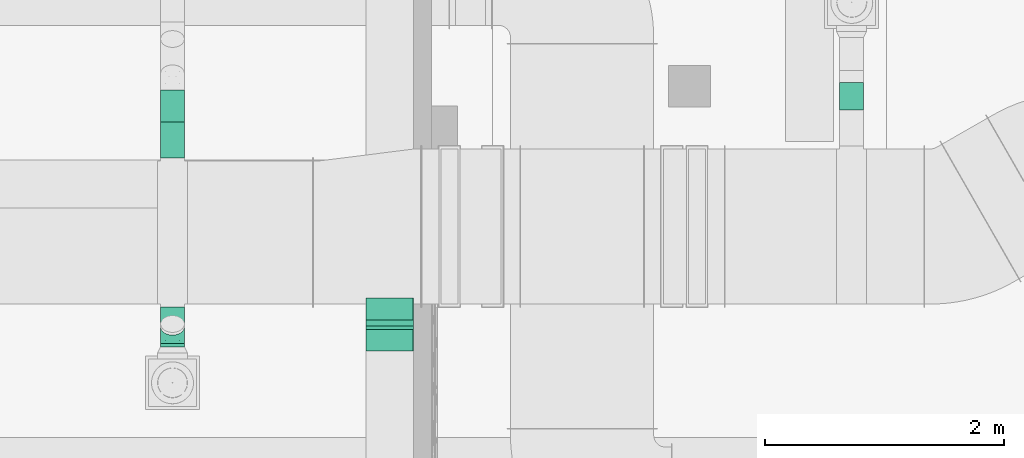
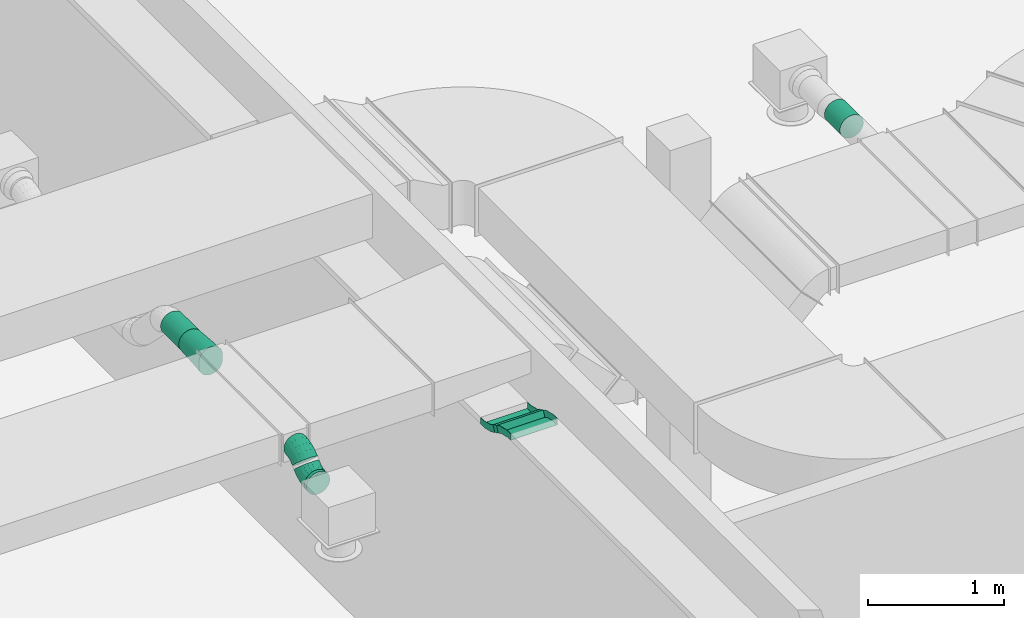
# One storey, part 279 of 302: 5 flow fittings, 4 flow segments.
"""IFC2X3 building model written with IfcOpenShell, lengths in metres."""

from ifc_helpers import new_model, entity, si_unit, converted_unit, derived_unit, direction, frame, frame_2d, origin, origin_2d_with_axis, place, context, subcontext, project, spatial, rectangle, circle, extrude, faceted_brep, source, transform, mapped, material, type_object, type_shapes, element, save


model = new_model("IFC2X3")

# Units and contexts
model_context = context("Model", 3, precision=1e-05, world=origin(), true_north=direction((6.12303176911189e-17, 1.0)))
body_context = subcontext(model_context, "Body", "Model", "MODEL_VIEW")
ifc_project = project(units=[si_unit("LENGTHUNIT", "METRE"), si_unit("AREAUNIT", "SQUARE_METRE"), si_unit("VOLUMEUNIT", "CUBIC_METRE"), converted_unit("PLANEANGLEUNIT", "DEGREE", entity("IfcRatioMeasure", 0.0174532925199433), si_unit("PLANEANGLEUNIT", "RADIAN"), dimensions=[0, 0, 0, 0, 0, 0, 0]), si_unit("MASSUNIT", "GRAM", prefix="KILO"), derived_unit("MASSDENSITYUNIT", [(si_unit("MASSUNIT", "GRAM", prefix="KILO"), 1), (si_unit("LENGTHUNIT", "METRE"), -3)]), derived_unit("MOMENTOFINERTIAUNIT", [(si_unit("LENGTHUNIT", "METRE"), 4)]), si_unit("TIMEUNIT", "SECOND"), si_unit("FREQUENCYUNIT", "HERTZ"), si_unit("THERMODYNAMICTEMPERATUREUNIT", "DEGREE_CELSIUS"), derived_unit("THERMALTRANSMITTANCEUNIT", [(si_unit("MASSUNIT", "GRAM", prefix="KILO"), 1), (si_unit("THERMODYNAMICTEMPERATUREUNIT", "KELVIN"), -1), (si_unit("TIMEUNIT", "SECOND"), -3)]), derived_unit("VOLUMETRICFLOWRATEUNIT", [(si_unit("LENGTHUNIT", "METRE"), 3), (si_unit("TIMEUNIT", "SECOND"), -1)]), si_unit("ELECTRICCURRENTUNIT", "AMPERE"), si_unit("ELECTRICVOLTAGEUNIT", "VOLT"), si_unit("POWERUNIT", "WATT"), si_unit("FORCEUNIT", "NEWTON", prefix="KILO"), si_unit("ILLUMINANCEUNIT", "LUX"), si_unit("LUMINOUSFLUXUNIT", "LUMEN"), si_unit("LUMINOUSINTENSITYUNIT", "CANDELA"), derived_unit("USERDEFINED", [(si_unit("MASSUNIT", "GRAM", prefix="KILO"), -1), (si_unit("LENGTHUNIT", "METRE"), -2), (si_unit("TIMEUNIT", "SECOND"), 3), (si_unit("LUMINOUSFLUXUNIT", "LUMEN"), 1)]), derived_unit("LINEARVELOCITYUNIT", [(si_unit("LENGTHUNIT", "METRE"), 1), (si_unit("TIMEUNIT", "SECOND"), -1)]), si_unit("PRESSUREUNIT", "PASCAL"), derived_unit("USERDEFINED", [(si_unit("LENGTHUNIT", "METRE"), -2), (si_unit("MASSUNIT", "GRAM", prefix="KILO"), 1), (si_unit("TIMEUNIT", "SECOND"), -2)]), derived_unit("LINEARFORCEUNIT", [(si_unit("MASSUNIT", "GRAM", prefix="KILO"), 1), (si_unit("LENGTHUNIT", "METRE"), 1), (si_unit("TIMEUNIT", "SECOND"), -2), (si_unit("LENGTHUNIT", "METRE"), -1)]), derived_unit("PLANARFORCEUNIT", [(si_unit("MASSUNIT", "GRAM", prefix="KILO"), 1), (si_unit("LENGTHUNIT", "METRE"), 1), (si_unit("TIMEUNIT", "SECOND"), -2), (si_unit("LENGTHUNIT", "METRE"), -2)])], contexts=[model_context])

# Site, building, storey
site_placement = place(None, origin())
site = spatial("IfcSite", under=ifc_project, at=site_placement, Name="Default", CompositionType="ELEMENT")
building_placement = place(site_placement, origin())
building = spatial("IfcBuilding", under=site, at=building_placement, CompositionType="ELEMENT")
storey_placement = place(building_placement, frame((0.0, 0.0, -1.3)))
storey = spatial("IfcBuildingStorey", under=building, at=storey_placement, Name="00_EG", CompositionType="ELEMENT", Elevation=-1.3)

# Flow segment
cable_carrier_segment_type = type_object("IfcCableCarrierSegmentType", Name="Kabeltrasse mit Formteilen:Channel Cable Tray", PredefinedType="CABLETRAYSEGMENT")
flow_segment_1_placement = place(storey_placement, origin())
element("IfcFlowSegment", 1, at=flow_segment_1_placement, inside=storey, type_object=cable_carrier_segment_type, Name="Kabeltrasse mit Formteilen:Channel Cable Tray", ObjectType="Kabeltrasse mit Formteilen:Channel Cable Tray", context=body_context, shape_type="SweptSolid", body=[
    extrude(rectangle(XDim=0.0600000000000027, YDim=0.0578549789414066, at=frame_2d((1.80584713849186e-15, 1.22471477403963e-15), x_axis=(0.0, 1.0))), frame((-220.285111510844, 21.4502536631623, 4.79), z_axis=(1.0, 0.0, 0.0), x_axis=(0.0, -0.891006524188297, 0.453990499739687)), (0.0, 0.0, 1.0), 0.399999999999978),
])

# Flow fittings
ifc_material = material(Name="<Unnamed>")
cable_carrier_fitting_type_1 = type_object("IfcCableCarrierFittingType", Name="Kabeltrasse - Bogen außen vertikal:Standard", PredefinedType="NOTDEFINED", material=ifc_material)
shared_shape_1 = source(origin(), body_context, "Body", "Brep", [
    faceted_brep([(-0.103233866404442, -0.0300000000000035, 0.199999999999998), (-0.103233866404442, 0.0299999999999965, 0.199999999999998), (-0.103233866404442, 0.0299999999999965, -0.200000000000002), (-0.103233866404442, -0.0300000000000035, -0.200000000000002), (-0.103233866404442, -0.0300000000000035, -0.197460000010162), (-0.103233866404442, 0.0274600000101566, -0.197460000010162), (-0.103233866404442, 0.0274600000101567, 0.197460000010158), (-0.103233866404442, -0.0300000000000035, 0.197460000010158), (0.105601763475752, 0.0201369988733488, 0.199999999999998), (0.105601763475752, 0.0201369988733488, 0.197460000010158), (0.0795154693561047, 0.071334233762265, 0.197460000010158), (0.0795154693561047, 0.071334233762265, -0.197460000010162), (0.105601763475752, 0.0201369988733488, -0.197460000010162), (0.105601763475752, 0.0201369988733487, -0.200000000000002), (0.0783623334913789, 0.0735973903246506, -0.200000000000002), (0.0783623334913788, 0.0735973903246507, 0.199999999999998), (-0.0487892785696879, -0.0300000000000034, 0.199999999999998), (0.0570912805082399, -0.00458032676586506, 0.199999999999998), (0.036179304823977, 0.052104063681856, 0.199999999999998), (-0.0558907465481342, 0.0299999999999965, 0.199999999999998), (-0.0558907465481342, 0.0299999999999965, -0.200000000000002), (0.036179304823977, 0.052104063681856, -0.200000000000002), (0.0570912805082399, -0.00458032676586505, -0.200000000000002), (-0.0487892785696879, -0.0300000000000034, -0.200000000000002), (-0.0487892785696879, -0.0300000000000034, -0.197460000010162), (0.0570912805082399, -0.00458032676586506, -0.197460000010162), (0.0370645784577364, 0.0497044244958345, -0.197460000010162), (-0.0555901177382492, 0.0274600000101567, -0.197460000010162), (-0.0555901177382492, 0.0274600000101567, 0.197460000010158), (0.0370645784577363, 0.0497044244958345, 0.197460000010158), (0.0570912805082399, -0.00458032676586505, 0.197460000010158), (-0.0487892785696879, -0.0300000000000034, 0.197460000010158)], [[[0, 1, 2, 3, 4, 5, 6, 7]], [[8, 9, 10, 11, 12, 13, 14, 15]], [[1, 0, 16, 17, 8, 15, 18, 19]], [[2, 1, 19, 20]], [[3, 2, 20, 21, 14, 13, 22, 23]], [[4, 3, 23, 24]], [[5, 4, 24, 25, 12, 11, 26, 27]], [[6, 5, 27, 28]], [[7, 6, 28, 29, 10, 9, 30, 31]], [[0, 7, 31, 16]], [[20, 19, 18, 21]], [[24, 23, 22, 25]], [[28, 27, 26, 29]], [[16, 31, 30, 17]], [[21, 18, 15, 14]], [[25, 22, 13, 12]], [[29, 26, 11, 10]], [[17, 30, 9, 8]]]),
])
type_shapes(cable_carrier_fitting_type_1, [shared_shape_1])
flow_fitting_1_placement = place(storey_placement, frame((-220.085111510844, 21.3324970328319, 4.85), z_axis=(1.0, 0.0, 0.0), x_axis=(0.0, -0.891006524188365, 0.453990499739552)))
element("IfcFlowFitting", 2, at=flow_fitting_1_placement, inside=storey, type_object=cable_carrier_fitting_type_1, material=ifc_material, Name="Kabeltrasse - Bogen außen vertikal:Standard", ObjectType="Kabeltrasse - Bogen außen vertikal:Standard", context=body_context, shape_type="MappedRepresentation", body=[
    mapped(shared_shape_1, transform((0.0, 0.0, 0.0), scale=1.0)),
])
cable_carrier_fitting_type_2 = type_object("IfcCableCarrierFittingType", Name="Kabeltrasse - Bogen innen vertikal:Standard", PredefinedType="NOTDEFINED", material=ifc_material)
shared_shape_2 = source(origin(), body_context, "Body", "Brep", [
    faceted_brep([(-0.103233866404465, 0.0299999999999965, 0.199999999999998), (-0.103233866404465, 0.0299999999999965, 0.197460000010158), (-0.103233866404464, -0.0274600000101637, 0.197460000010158), (-0.103233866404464, -0.0274600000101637, -0.197460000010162), (-0.103233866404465, 0.0299999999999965, -0.197460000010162), (-0.103233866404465, 0.0299999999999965, -0.200000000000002), (-0.103233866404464, -0.0300000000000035, -0.200000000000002), (-0.103233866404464, -0.0300000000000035, 0.199999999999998), (0.0783623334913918, 0.0735973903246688, 0.199999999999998), (0.10560176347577, 0.0201369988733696, 0.199999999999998), (0.10560176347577, 0.0201369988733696, -0.200000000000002), (0.0783623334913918, 0.0735973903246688, -0.200000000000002), (0.0783623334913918, 0.0735973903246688, -0.197460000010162), (0.104448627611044, 0.0224001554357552, -0.197460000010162), (0.104448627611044, 0.0224001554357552, 0.197460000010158), (0.0783623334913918, 0.0735973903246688, 0.197460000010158), (-0.0558907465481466, 0.0299999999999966, 0.199999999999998), (-0.0558907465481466, 0.0299999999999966, 0.197460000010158), (0.036179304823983, 0.0521040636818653, 0.197460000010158), (0.0562060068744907, -0.00218068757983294, 0.197460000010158), (-0.0490899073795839, -0.0274600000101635, 0.197460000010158), (-0.0490899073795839, -0.0274600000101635, -0.197460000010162), (0.0562060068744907, -0.00218068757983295, -0.197460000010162), (0.036179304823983, 0.0521040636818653, -0.197460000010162), (-0.0558907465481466, 0.0299999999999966, -0.197460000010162), (-0.0558907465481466, 0.0299999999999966, -0.200000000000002), (0.036179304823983, 0.0521040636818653, -0.200000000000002), (0.0570912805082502, -0.00458032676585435, -0.200000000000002), (-0.0487892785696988, -0.0300000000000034, -0.200000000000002), (-0.0487892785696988, -0.0300000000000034, 0.199999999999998), (0.0570912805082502, -0.00458032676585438, 0.199999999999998), (0.036179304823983, 0.0521040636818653, 0.199999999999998)], [[[0, 1, 2, 3, 4, 5, 6, 7]], [[8, 9, 10, 11, 12, 13, 14, 15]], [[1, 0, 16, 17]], [[2, 1, 17, 18, 15, 14, 19, 20]], [[3, 2, 20, 21]], [[4, 3, 21, 22, 13, 12, 23, 24]], [[5, 4, 24, 25]], [[6, 5, 25, 26, 11, 10, 27, 28]], [[7, 6, 28, 29]], [[0, 7, 29, 30, 9, 8, 31, 16]], [[17, 16, 31, 18]], [[21, 20, 19, 22]], [[25, 24, 23, 26]], [[29, 28, 27, 30]], [[18, 31, 8, 15]], [[22, 19, 14, 13]], [[26, 23, 12, 11]], [[30, 27, 10, 9]]]),
])
type_shapes(cable_carrier_fitting_type_2, [shared_shape_2])
flow_fitting_2_placement = place(storey_placement, frame((-220.085111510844, 21.5680102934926, 4.72999999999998), z_axis=(1.0, 0.0, 0.0), x_axis=(0.0, 0.89100652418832, -0.453990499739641)))
element("IfcFlowFitting", 3, at=flow_fitting_2_placement, inside=storey, type_object=cable_carrier_fitting_type_2, material=ifc_material, Name="Kabeltrasse - Bogen innen vertikal:Standard", ObjectType="Kabeltrasse - Bogen innen vertikal:Standard", context=body_context, shape_type="MappedRepresentation", body=[
    mapped(shared_shape_2, transform((0.0, 0.0, 0.0), scale=1.0)),
])

# Flow segments
duct_segment_type = type_object("IfcDuctSegmentType", Name="Rund:STR_Segment_RND_GS_EA", PredefinedType="NOTDEFINED")
flow_segment_2_placement = place(storey_placement, origin())
element("IfcFlowSegment", 4, at=flow_segment_2_placement, inside=storey, type_object=duct_segment_type, Name="Rund:STR_Segment_RND_GS_EA", ObjectType="Rund:STR_Segment_RND_GS_EA", context=body_context, shape_type="SweptSolid", body=[
    extrude(circle(Radius=0.1, at=origin_2d_with_axis()), frame((-216.214864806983, 23.2473454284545, 5.0), z_axis=(0.0, 1.0, 0.0), x_axis=(1.0, 0.0, 0.0)), (0.0, 0.0, 1.0), 0.230199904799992),
])
flow_segment_3_placement = place(storey_placement, origin())
element("IfcFlowSegment", 5, at=flow_segment_3_placement, inside=storey, type_object=duct_segment_type, Name="Rund:STR_Segment_RND_GS_EA", ObjectType="Rund:STR_Segment_RND_GS_EA", context=body_context, shape_type="SweptSolid", body=[
    extrude(circle(Radius=0.1, at=origin_2d_with_axis()), frame((-221.905155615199, 23.1468155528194, 5.125), z_axis=(0.0, 1.0, 0.0), x_axis=(1.0, 0.0, 0.0)), (0.0, 0.0, 1.0), 0.267157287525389),
])
flow_segment_4_placement = place(storey_placement, origin())
element("IfcFlowSegment", 6, at=flow_segment_4_placement, inside=storey, type_object=duct_segment_type, Name="Rund:STR_Segment_RND_GS_EA", ObjectType="Rund:STR_Segment_RND_GS_EA", context=body_context, shape_type="SweptSolid", body=[
    extrude(circle(Radius=0.1, at=origin_2d_with_axis()), frame((-221.905155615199, 21.2618155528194, 4.985), z_axis=(0.0, 1.0, 0.0), x_axis=(1.0, 0.0, 0.0)), (0.0, 0.0, 1.0), 0.0293146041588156),
])

# Flow fittings
duct_fitting_type_1 = type_object("IfcDuctFittingType", Name="STR_OVL_Transition:STR_Transition_OVL_GS_EA", PredefinedType="NOTDEFINED", material=ifc_material)
shared_shape_3 = source(origin(), body_context, "Body", "Brep", [
    faceted_brep([(0.300000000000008, 0.0999999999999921, 0.00158749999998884), (0.300000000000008, 0.0966466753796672, 0.0270585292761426), (0.300000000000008, 0.0868152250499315, 0.050793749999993), (0.300000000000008, 0.0711756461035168, 0.0711756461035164), (0.300000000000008, 0.0507937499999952, 0.0868152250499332), (0.300000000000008, 0.0270585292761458, 0.0966466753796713), (0.300000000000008, 0.00158749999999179, 0.0999999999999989), (0.300000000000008, -0.00158750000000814, 0.0999999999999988), (0.300000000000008, -0.0270585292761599, 0.0966466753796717), (0.300000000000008, -0.0507937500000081, 0.0868152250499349), (0.300000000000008, -0.0711756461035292, 0.07117564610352), (0.300000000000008, -0.0868152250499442, 0.0507937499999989), (0.300000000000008, -0.0966466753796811, 0.0270585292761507), (0.300000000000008, -0.100000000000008, 0.00158749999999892), (0.300000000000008, -0.100000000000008, -0.00158750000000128), (0.300000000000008, -0.0966466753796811, -0.0270585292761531), (0.300000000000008, -0.0868152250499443, -0.0507937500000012), (0.300000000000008, -0.0711756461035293, -0.0711756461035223), (0.300000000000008, -0.0507937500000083, -0.0868152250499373), (0.300000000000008, -0.0270585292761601, -0.0966466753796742), (0.300000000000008, -0.00158750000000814, -0.100000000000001), (0.300000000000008, 0.0015874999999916, -0.100000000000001), (0.300000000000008, 0.0270585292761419, -0.0966466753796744), (0.300000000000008, 0.0507937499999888, -0.0868152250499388), (0.300000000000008, 0.0711756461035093, -0.0711756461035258), (0.300000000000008, 0.0868152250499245, -0.0507937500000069), (0.300000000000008, 0.0966466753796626, -0.0270585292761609), (0.300000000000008, 0.0999999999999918, -0.00158750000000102), (0.0, 0.00158749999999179, -0.125000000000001), (0.0, -0.00158750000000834, -0.125000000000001), (0.0, -0.0270585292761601, -0.121646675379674), (0.0, -0.0507937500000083, -0.111815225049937), (0.0, -0.0711756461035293, -0.0961756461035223), (0.0, -0.0868152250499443, -0.0757937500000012), (0.0, -0.0966466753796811, -0.0520585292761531), (0.0, -0.100000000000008, -0.026587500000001), (0.0, -0.100000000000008, 0.0265874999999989), (0.0, -0.0966466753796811, 0.0520585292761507), (0.0, -0.0868152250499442, 0.0757937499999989), (0.0, -0.0711756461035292, 0.0961756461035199), (0.0, -0.0507937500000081, 0.111815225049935), (0.0, -0.0270585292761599, 0.121646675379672), (0.0, -0.00158750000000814, 0.124999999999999), (0.0, 0.00158749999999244, 0.124999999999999), (0.0, 0.0270585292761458, 0.121646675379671), (0.0, 0.0507937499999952, 0.111815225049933), (0.0, 0.0711756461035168, 0.0961756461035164), (0.0, 0.0868152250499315, 0.0757937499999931), (0.0, 0.0966466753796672, 0.0520585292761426), (0.0, 0.0999999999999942, 0.026587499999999), (0.0, 0.0999999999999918, -0.0265875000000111), (0.0, 0.0966466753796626, -0.052058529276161), (0.0, 0.0868152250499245, -0.0757937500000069), (0.0, 0.0711756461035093, -0.0961756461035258), (0.0, 0.0507937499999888, -0.111815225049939), (0.0, 0.0270585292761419, -0.121646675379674), (0.154247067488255, -0.0203412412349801, 0.110342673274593), (0.145752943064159, -0.0981965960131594, 0.03319516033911), (0.107489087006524, -0.00158750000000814, 0.116042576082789), (0.149999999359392, -0.0614972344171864, 0.0921633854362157), (0.15000000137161, -0.0392483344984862, 0.105008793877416), (0.150000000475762, -0.0796633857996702, 0.0739972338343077), (0.192510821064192, -0.100000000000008, 0.0105449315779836), (0.149999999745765, -0.0925087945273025, 0.0517483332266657), (0.107489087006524, -0.100000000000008, -0.0176300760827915), (0.154247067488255, -0.0981965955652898, -0.0324873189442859), (0.145752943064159, -0.0203412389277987, -0.111050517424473), (0.149999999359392, -0.0796633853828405, -0.0739972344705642), (0.15000000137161, -0.0925087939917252, -0.0517483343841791), (0.150000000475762, -0.0614972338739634, -0.0921633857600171), (0.192511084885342, -0.00158750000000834, -0.10895740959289), (0.149999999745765, -0.0392483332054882, -0.105008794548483), (0.107489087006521, 0.0015874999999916, -0.116042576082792), (0.154247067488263, 0.0203412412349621, -0.110342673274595), (0.145752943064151, 0.0981965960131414, -0.0331951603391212), (0.149999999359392, 0.0614972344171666, -0.0921633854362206), (0.15000000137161, 0.0392483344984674, -0.105008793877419), (0.150000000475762, 0.0796633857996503, -0.0739972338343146), (0.192510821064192, 0.0999999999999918, -0.0105449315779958), (0.149999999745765, 0.0925087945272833, -0.0517483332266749), (0.107489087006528, 0.0999999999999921, 0.0176300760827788), (0.154247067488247, 0.0981965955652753, 0.0324873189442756), (0.145752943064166, 0.0203412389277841, 0.11105051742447), (0.149999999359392, 0.079663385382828, 0.0739972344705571), (0.15000000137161, 0.0925087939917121, 0.0517483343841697), (0.150000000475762, 0.0614972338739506, 0.0921633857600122), (0.192510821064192, 0.00158749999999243, 0.108957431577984), (0.149999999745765, 0.0392483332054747, 0.105008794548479)], [[[0, 1, 2, 3, 4, 5, 6, 7, 8, 9, 10, 11, 12, 13, 14, 15, 16, 17, 18, 19, 20, 21, 22, 23, 24, 25, 26, 27]], [[28, 29, 30, 31, 32, 33, 34, 35, 36, 37, 38, 39, 40, 41, 42, 43, 44, 45, 46, 47, 48, 49, 50, 51, 52, 53, 54, 55]], [[56, 42, 41]], [[36, 57, 37]], [[56, 7, 58, 42]], [[40, 39, 59]], [[41, 60, 56]], [[59, 60, 40]], [[61, 59, 39]], [[41, 40, 60]], [[8, 56, 60]], [[10, 9, 59]], [[9, 60, 59]], [[57, 36, 62, 13]], [[38, 37, 63]], [[63, 61, 38]], [[12, 57, 13]], [[12, 63, 57]], [[9, 8, 60]], [[10, 61, 11]], [[12, 11, 63]], [[63, 11, 61]], [[37, 57, 63]], [[61, 10, 59]], [[61, 39, 38]], [[7, 56, 8]], [[35, 64, 14, 13, 62, 36]], [[65, 35, 34]], [[29, 66, 30]], [[65, 14, 64, 35]], [[33, 32, 67]], [[34, 68, 65]], [[67, 68, 33]], [[69, 67, 32]], [[34, 33, 68]], [[15, 65, 68]], [[17, 16, 67]], [[16, 68, 67]], [[66, 29, 70, 20]], [[31, 30, 71]], [[71, 69, 31]], [[19, 66, 20]], [[19, 71, 66]], [[16, 15, 68]], [[17, 69, 18]], [[19, 18, 71]], [[71, 18, 69]], [[30, 66, 71]], [[69, 17, 67]], [[69, 32, 31]], [[14, 65, 15]], [[28, 72, 21, 20, 70, 29]], [[73, 28, 55]], [[50, 74, 51]], [[73, 21, 72, 28]], [[54, 53, 75]], [[55, 76, 73]], [[75, 76, 54]], [[77, 75, 53]], [[55, 54, 76]], [[22, 73, 76]], [[24, 23, 75]], [[23, 76, 75]], [[74, 50, 78, 27]], [[52, 51, 79]], [[79, 77, 52]], [[26, 74, 27]], [[26, 79, 74]], [[23, 22, 76]], [[24, 77, 25]], [[26, 25, 79]], [[79, 25, 77]], [[51, 74, 79]], [[77, 24, 75]], [[77, 53, 52]], [[21, 73, 22]], [[49, 80, 0, 27, 78, 50]], [[81, 49, 48]], [[43, 82, 44]], [[81, 0, 80, 49]], [[47, 46, 83]], [[48, 84, 81]], [[83, 84, 47]], [[85, 83, 46]], [[48, 47, 84]], [[1, 81, 84]], [[3, 2, 83]], [[2, 84, 83]], [[82, 43, 86, 6]], [[45, 44, 87]], [[87, 85, 45]], [[5, 82, 6]], [[5, 87, 82]], [[2, 1, 84]], [[3, 85, 4]], [[5, 4, 87]], [[87, 4, 85]], [[44, 82, 87]], [[85, 3, 83]], [[85, 46, 45]], [[0, 81, 1]], [[42, 58, 7, 6, 86, 43]]]),
])
type_shapes(duct_fitting_type_1, [shared_shape_3])
flow_fitting_3_placement = place(storey_placement, frame((-221.905155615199, 22.8468155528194, 5.125), z_axis=(0.0, 0.0, 1.0), x_axis=(0.0, 1.0, 0.0)))
element("IfcFlowFitting", 7, at=flow_fitting_3_placement, inside=storey, type_object=duct_fitting_type_1, material=ifc_material, Name="STR_OVL_Transition:STR_Transition_OVL_GS_EA", ObjectType="STR_OVL_Transition:STR_Transition_OVL_GS_EA", context=body_context, shape_type="MappedRepresentation", body=[
    mapped(shared_shape_3, transform((0.0, 0.0, 0.0), scale=1.0)),
])
duct_fitting_type_2 = type_object("IfcDuctFittingType", Name="STR_RND_Elbow:STR_Elbow_RND_GS_EA", PredefinedType="NOTDEFINED", material=ifc_material)
shared_shape_4 = source(origin(), body_context, "Body", "Brep", [
    faceted_brep([(-0.0438246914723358, 0.00384295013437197, 0.0999999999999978), (-0.0498533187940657, 0.0341508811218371, 0.0951056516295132), (-0.0828427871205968, 0.0309016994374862, 0.0951056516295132), (-0.0828427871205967, 0.0, 0.0999999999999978), (-0.0552918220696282, 0.061492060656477, 0.0809016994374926), (-0.0828427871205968, 0.0587785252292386, 0.0809016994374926), (-0.0596078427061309, 0.0831901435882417, 0.0587785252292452), (-0.0828427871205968, 0.0809016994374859, 0.0587785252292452), (-0.0623788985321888, 0.097121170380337, 0.0309016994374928), (-0.0828427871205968, 0.0951056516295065, 0.0309016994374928), (-0.0633337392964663, 0.101921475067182, 0.0), (-0.0828427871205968, 0.0999999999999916, 0.0), (-0.0623788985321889, 0.0971211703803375, -0.030901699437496), (-0.0828427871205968, 0.095105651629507, -0.030901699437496), (-0.059607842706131, 0.0831901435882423, -0.0587785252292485), (-0.0828427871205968, 0.0809016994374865, -0.0587785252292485), (-0.0552918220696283, 0.0614920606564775, -0.0809016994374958), (-0.0828427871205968, 0.0587785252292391, -0.0809016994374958), (-0.0498533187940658, 0.0341508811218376, -0.0951056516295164), (-0.0828427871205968, 0.0309016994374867, -0.0951056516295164), (-0.043824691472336, 0.00384295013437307, -0.100000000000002), (-0.0828427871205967, 0.0, -0.100000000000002), (-0.037796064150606, -0.0264649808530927, -0.0951056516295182), (-0.0828427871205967, -0.0309016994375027, -0.0951056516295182), (-0.0323575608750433, -0.0538061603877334, -0.0809016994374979), (-0.0828427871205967, -0.0587785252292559, -0.0809016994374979), (-0.0280415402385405, -0.075504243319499, -0.0587785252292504), (-0.0828427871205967, -0.080901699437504, -0.0587785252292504), (-0.0252704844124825, -0.0894352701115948, -0.0309016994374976), (-0.0828427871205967, -0.0951056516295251, -0.0309016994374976), (-0.0243156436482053, -0.0942355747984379, 0.0), (-0.0828427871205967, -0.100000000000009, 0.0), (-0.0252704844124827, -0.0894352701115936, 0.0309016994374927), (-0.0828427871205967, -0.0951056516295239, 0.0309016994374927), (-0.0280415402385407, -0.0755042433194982, 0.0587785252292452), (-0.0828427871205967, -0.0809016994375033, 0.0587785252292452), (-0.0323575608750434, -0.0538061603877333, 0.0809016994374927), (-0.0828427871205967, -0.0587785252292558, 0.0809016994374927), (-0.0377960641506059, -0.0264649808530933, 0.0951056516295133), (-0.0828427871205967, -0.0309016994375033, 0.0951056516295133), (-0.00630604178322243, 0.0152241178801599, 0.0999999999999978), (-0.0181316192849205, 0.0437735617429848, 0.0951056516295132), (-0.028799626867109, 0.0695283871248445, 0.0809016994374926), (-0.037265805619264, 0.0899675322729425, 0.0587785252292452), (-0.0427014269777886, 0.103090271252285, 0.0309016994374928), (-0.0445744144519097, 0.107612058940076, 0.0), (-0.0427014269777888, 0.103090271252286, -0.030901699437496), (-0.0372658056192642, 0.089967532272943, -0.0587785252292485), (-0.0287996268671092, 0.069528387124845, -0.0809016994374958), (-0.0181316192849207, 0.0437735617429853, -0.0951056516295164), (-0.00630604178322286, 0.015224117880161, -0.100000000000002), (0.00551953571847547, -0.0133253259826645, -0.0951056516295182), (0.0161875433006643, -0.039080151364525, -0.0809016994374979), (0.0246537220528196, -0.0595192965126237, -0.0587785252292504), (0.0300893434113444, -0.0726420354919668, -0.0309016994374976), (0.0319623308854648, -0.077163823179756, 0.0), (0.0300893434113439, -0.0726420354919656, 0.0309016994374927), (0.0246537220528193, -0.059519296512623, 0.0587785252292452), (0.0161875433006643, -0.0390801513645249, 0.0809016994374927), (0.0055195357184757, -0.0133253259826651, 0.0951056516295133), (0.0282713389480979, 0.0337061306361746, 0.0999999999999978), (0.0111032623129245, 0.0593999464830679, 0.0951056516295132), (-0.00438428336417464, 0.0825786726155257, 0.0809016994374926), (-0.0166752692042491, 0.100973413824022, 0.0587785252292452), (-0.0245665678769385, 0.112783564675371, 0.0309016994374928), (-0.0272857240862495, 0.116853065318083, 0.0), (-0.0245665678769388, 0.112783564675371, -0.030901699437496), (-0.0166752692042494, 0.100973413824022, -0.0587785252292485), (-0.00438428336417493, 0.0825786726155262, -0.0809016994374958), (0.0111032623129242, 0.0593999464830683, -0.0951056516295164), (0.0282713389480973, 0.0337061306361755, -0.100000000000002), (0.0454394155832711, 0.00801231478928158, -0.0951056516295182), (0.0609269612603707, -0.0151664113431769, -0.0809016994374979), (0.0732179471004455, -0.0335611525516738, -0.0587785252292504), (0.0811092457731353, -0.0453713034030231, -0.0309016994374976), (0.0838284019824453, -0.049440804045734, 0.0), (0.0811092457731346, -0.0453713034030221, 0.0309016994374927), (0.0732179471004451, -0.0335611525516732, 0.0587785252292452), (0.0609269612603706, -0.0151664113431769, 0.0809016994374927), (0.0454394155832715, 0.00801231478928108, 0.0951056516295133), (0.0585786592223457, 0.0585787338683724, 0.0999999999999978), (0.0367278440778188, 0.0804295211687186, 0.0951056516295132), (0.0170159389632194, 0.10014140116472, 0.0809016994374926), (0.00137248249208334, 0.115784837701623, 0.0587785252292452), (-0.00867123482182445, 0.125828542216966, 0.0309016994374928), (-0.0121320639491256, 0.129289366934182, 0.0), (-0.00867123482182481, 0.125828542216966, -0.030901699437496), (0.00137248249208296, 0.115784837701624, -0.0587785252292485), (0.0170159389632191, 0.10014140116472, -0.0809016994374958), (0.0367278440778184, 0.080429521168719, -0.0951056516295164), (0.0585786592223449, 0.0585787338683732, -0.100000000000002), (0.0804294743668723, 0.0367279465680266, -0.0951056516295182), (0.100141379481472, 0.0170160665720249, -0.0809016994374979), (0.115784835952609, 0.00137263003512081, -0.0587785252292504), (0.125828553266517, -0.00867107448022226, -0.0309016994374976), (0.129289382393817, -0.0121318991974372, 0.0), (0.125828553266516, -0.00867107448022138, 0.0309016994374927), (0.115784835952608, 0.00137263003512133, 0.0587785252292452), (0.100141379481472, 0.017016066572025, 0.0809016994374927), (0.0804294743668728, 0.0367279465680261, 0.0951056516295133)], [[[0, 1, 2, 3]], [[1, 4, 5, 2]], [[4, 6, 7, 5]], [[6, 8, 9, 7]], [[8, 10, 11, 9]], [[10, 12, 13, 11]], [[12, 14, 15, 13]], [[14, 16, 17, 15]], [[16, 18, 19, 17]], [[18, 20, 21, 19]], [[20, 22, 23, 21]], [[22, 24, 25, 23]], [[24, 26, 27, 25]], [[26, 28, 29, 27]], [[28, 30, 31, 29]], [[30, 32, 33, 31]], [[32, 34, 35, 33]], [[34, 36, 37, 35]], [[36, 38, 39, 37]], [[38, 0, 3, 39]], [[40, 41, 1, 0]], [[41, 42, 4, 1]], [[42, 43, 6, 4]], [[43, 44, 8, 6]], [[44, 45, 10, 8]], [[45, 46, 12, 10]], [[46, 47, 14, 12]], [[47, 48, 16, 14]], [[48, 49, 18, 16]], [[49, 50, 20, 18]], [[50, 51, 22, 20]], [[51, 52, 24, 22]], [[52, 53, 26, 24]], [[53, 54, 28, 26]], [[54, 55, 30, 28]], [[55, 56, 32, 30]], [[56, 57, 34, 32]], [[57, 58, 36, 34]], [[58, 59, 38, 36]], [[59, 40, 0, 38]], [[60, 61, 41, 40]], [[61, 62, 42, 41]], [[62, 63, 43, 42]], [[63, 64, 44, 43]], [[64, 65, 45, 44]], [[65, 66, 46, 45]], [[66, 67, 47, 46]], [[67, 68, 48, 47]], [[68, 69, 49, 48]], [[69, 70, 50, 49]], [[70, 71, 51, 50]], [[71, 72, 52, 51]], [[72, 73, 53, 52]], [[73, 74, 54, 53]], [[74, 75, 55, 54]], [[75, 76, 56, 55]], [[76, 77, 57, 56]], [[77, 78, 58, 57]], [[78, 79, 59, 58]], [[79, 60, 40, 59]], [[80, 81, 61, 60]], [[81, 82, 62, 61]], [[82, 83, 63, 62]], [[83, 84, 64, 63]], [[84, 85, 65, 64]], [[85, 86, 66, 65]], [[86, 87, 67, 66]], [[87, 88, 68, 67]], [[88, 89, 69, 68]], [[89, 90, 70, 69]], [[90, 91, 71, 70]], [[91, 92, 72, 71]], [[92, 93, 73, 72]], [[93, 94, 74, 73]], [[94, 95, 75, 74]], [[95, 96, 76, 75]], [[96, 97, 77, 76]], [[97, 98, 78, 77]], [[98, 99, 79, 78]], [[99, 80, 60, 79]], [[3, 2, 5, 7, 9, 11, 13, 15, 17, 19, 21, 23, 25, 27, 29, 31, 33, 35, 37, 39]], [[99, 98, 97, 96, 95, 94, 93, 92, 91, 90, 89, 88, 87, 86, 85, 84, 83, 82, 81, 80]]]),
])
type_shapes(duct_fitting_type_2, [shared_shape_4])
for number, where, z_axis, x_axis in (
    (8, (-221.905155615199, 21.3739729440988, 4.98500000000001), (1.0, 0.0, 0.0), (0.0, 1.0, 0.0)),
    (9, (-221.905155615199, 21.5139727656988, 5.12499999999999), (-1.0, 0.0, 0.0), (0.0, 0.707106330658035, 0.707107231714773)),
):
    element("IfcFlowFitting", number, at=place(storey_placement, frame(where, z_axis=z_axis, x_axis=x_axis)), inside=storey, type_object=duct_fitting_type_2, material=ifc_material, Name="STR_RND_Elbow:STR_Elbow_RND_GS_EA", ObjectType="STR_RND_Elbow:STR_Elbow_RND_GS_EA", context=body_context, shape_type="MappedRepresentation", body=[
        mapped(shared_shape_4, transform((0.0, 0.0, 0.0), scale=1.0)),
    ])

save(model, "model.ifc")
